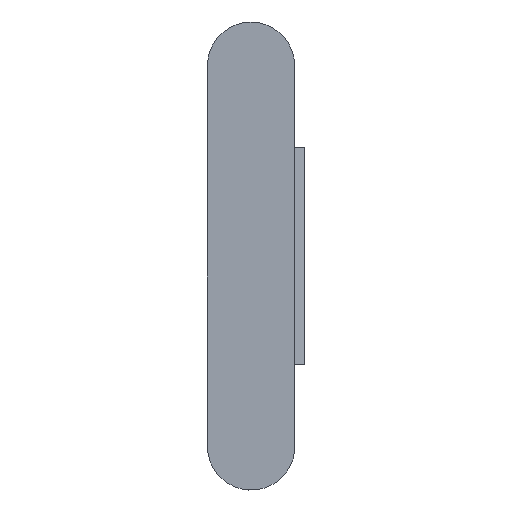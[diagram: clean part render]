
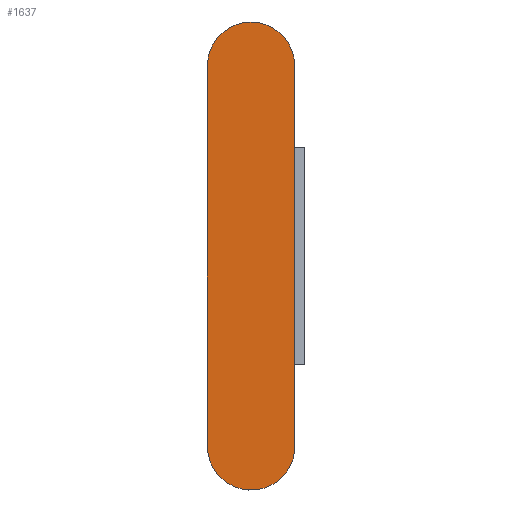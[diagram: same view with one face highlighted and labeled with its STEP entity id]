
A CAD part, front view. The second image highlights one B-rep face of the part: STEP entity #1637.
In plain terms, the highlighted planar face has unit normal (0, -1, 0).
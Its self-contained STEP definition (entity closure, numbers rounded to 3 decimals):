
#1557=CARTESIAN_POINT('',(79.949,75.333,-3.75));
#1558=VERTEX_POINT('',#1557);
#1565=CARTESIAN_POINT('',(79.949,75.333,13.75));
#1566=VERTEX_POINT('',#1565);
#1567=CARTESIAN_POINT('',(79.949,75.333,-3.75));
#1568=DIRECTION('',(0.0,0.0,1.0));
#1569=VECTOR('',#1568,17.5);
#1570=LINE('',#1567,#1569);
#1571=EDGE_CURVE('',#1558,#1566,#1570,.T.);
#1588=CARTESIAN_POINT('',(83.953,75.333,13.75));
#1589=VERTEX_POINT('',#1588);
#1596=CARTESIAN_POINT('',(83.953,75.333,-4.));
#1597=VERTEX_POINT('',#1596);
#1598=CARTESIAN_POINT('',(83.953,75.333,-4.));
#1599=DIRECTION('',(0.0,0.0,1.0));
#1600=VECTOR('',#1599,17.75);
#1601=LINE('',#1598,#1600);
#1602=EDGE_CURVE('',#1597,#1589,#1601,.T.);
#1614=CARTESIAN_POINT('',(83.953,75.333,10.0));
#1615=DIRECTION('',(0.0,-1.0,0.0));
#1616=DIRECTION('',(0.0,0.0,-1.0));
#1617=AXIS2_PLACEMENT_3D('',#1614,#1615,#1616);
#1618=PLANE('',#1617);
#1619=CARTESIAN_POINT('',(81.959,75.333,-3.75));
#1620=DIRECTION('',(0.0,1.0,0.0));
#1621=DIRECTION('',(1.0,0.0,0.0));
#1622=AXIS2_PLACEMENT_3D('',#1619,#1620,#1621);
#1623=CIRCLE('',#1622,2.01);
#1624=EDGE_CURVE('',#1597,#1558,#1623,.T.);
#1625=ORIENTED_EDGE('',*,*,#1624,.F.);
#1626=ORIENTED_EDGE('',*,*,#1602,.T.);
#1627=CARTESIAN_POINT('',(81.951,75.333,13.75));
#1628=DIRECTION('',(0.0,-1.0,0.0));
#1629=DIRECTION('',(-1.0,0.0,0.0));
#1630=AXIS2_PLACEMENT_3D('',#1627,#1628,#1629);
#1631=CIRCLE('',#1630,2.002);
#1632=EDGE_CURVE('',#1589,#1566,#1631,.T.);
#1633=ORIENTED_EDGE('',*,*,#1632,.T.);
#1634=ORIENTED_EDGE('',*,*,#1571,.F.);
#1635=EDGE_LOOP('',(#1625,#1626,#1633,#1634));
#1636=FACE_OUTER_BOUND('',#1635,.T.);
#1637=ADVANCED_FACE('',(#1636),#1618,.T.);
